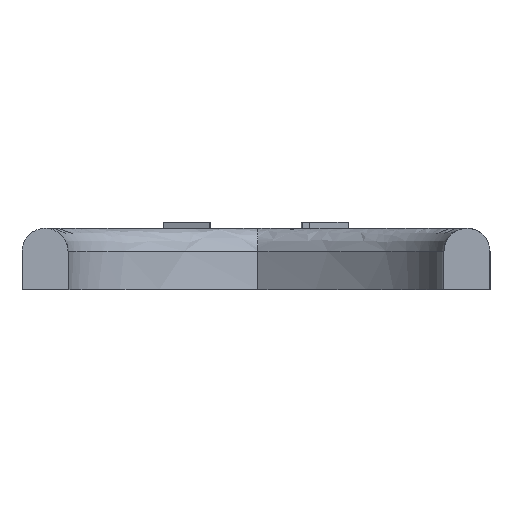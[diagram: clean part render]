
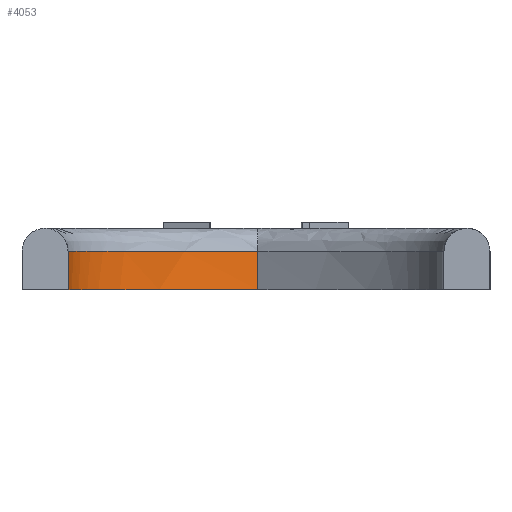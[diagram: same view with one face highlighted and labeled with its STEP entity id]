
A CAD part, left-side view. The second image highlights one B-rep face of the part: STEP entity #4053.
In plain terms, the highlighted free-form (B-spline) face has degree [3, 1] with [16, 2] control points.
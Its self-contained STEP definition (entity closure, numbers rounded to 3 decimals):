
#313=FACE_OUTER_BOUND('',#556,.T.);
#556=EDGE_LOOP('',(#2733,#2734,#2735,#2736));
#811=LINE('',#5838,#1158);
#812=LINE('',#5856,#1159);
#1158=VECTOR('',#4600,10.);
#1159=VECTOR('',#4601,10.);
#1507=B_SPLINE_CURVE_WITH_KNOTS('',3,(#5829,#5830,#5831,#5832,#5833,#5834,
#5835,#5836),.UNSPECIFIED.,.F.,.F.,(4,1,1,1,1,4),(0.125,0.134,
0.143,0.152,0.17,0.186),
 .UNSPECIFIED.);
#1508=B_SPLINE_CURVE_WITH_KNOTS('',3,(#5840,#5841,#5842,#5843,#5844,#5845,
#5846,#5847,#5848,#5849,#5850,#5851,#5852,#5853,#5854,#5855),
 .UNSPECIFIED.,.F.,.F.,(4,3,3,3,3,4),(-0.186,-0.175,
-0.154,-0.14,-0.127,-0.125),
 .UNSPECIFIED.);
#1698=VERTEX_POINT('',#5827);
#1699=VERTEX_POINT('',#5828);
#1700=VERTEX_POINT('',#5837);
#1701=VERTEX_POINT('',#5839);
#2096=EDGE_CURVE('',#1698,#1699,#1507,.T.);
#2097=EDGE_CURVE('',#1698,#1700,#811,.T.);
#2098=EDGE_CURVE('',#1701,#1700,#1508,.T.);
#2099=EDGE_CURVE('',#1699,#1701,#812,.T.);
#2733=ORIENTED_EDGE('',*,*,#2096,.F.);
#2734=ORIENTED_EDGE('',*,*,#2097,.T.);
#2735=ORIENTED_EDGE('',*,*,#2098,.F.);
#2736=ORIENTED_EDGE('',*,*,#2099,.F.);
#3985=B_SPLINE_SURFACE_WITH_KNOTS('',3,1,((#5795,#5796),(#5797,#5798),(#5799,
#5800),(#5801,#5802),(#5803,#5804),(#5805,#5806),(#5807,#5808),(#5809,#5810),
(#5811,#5812),(#5813,#5814),(#5815,#5816),(#5817,#5818),(#5819,#5820),(#5821,
#5822),(#5823,#5824),(#5825,#5826)),.UNSPECIFIED.,.F.,.F.,.F.,(4,3,3,3,
3,4),(2,2),(-0.186,-0.175,-0.154,-0.14,
-0.127,-0.125),(0.,0.5),.UNSPECIFIED.);
#4053=ADVANCED_FACE('',(#313),#3985,.T.);
#4600=DIRECTION('',(0.,0.,-1.));
#4601=DIRECTION('',(0.,0.,-1.));
#5795=CARTESIAN_POINT('Ctrl Pts',(86.602,27.257,0.));
#5796=CARTESIAN_POINT('Ctrl Pts',(86.602,27.257,-5.));
#5797=CARTESIAN_POINT('Ctrl Pts',(85.155,29.632,0.));
#5798=CARTESIAN_POINT('Ctrl Pts',(85.155,29.632,-5.));
#5799=CARTESIAN_POINT('Ctrl Pts',(83.715,31.975,0.));
#5800=CARTESIAN_POINT('Ctrl Pts',(83.715,31.975,-5.));
#5801=CARTESIAN_POINT('Ctrl Pts',(82.263,34.204,0.));
#5802=CARTESIAN_POINT('Ctrl Pts',(82.263,34.204,-5.));
#5803=CARTESIAN_POINT('Ctrl Pts',(79.269,38.797,0.));
#5804=CARTESIAN_POINT('Ctrl Pts',(79.269,38.797,-5.));
#5805=CARTESIAN_POINT('Ctrl Pts',(76.204,42.889,0.));
#5806=CARTESIAN_POINT('Ctrl Pts',(76.204,42.889,-5.));
#5807=CARTESIAN_POINT('Ctrl Pts',(73.015,45.907,0.));
#5808=CARTESIAN_POINT('Ctrl Pts',(73.015,45.907,-5.));
#5809=CARTESIAN_POINT('Ctrl Pts',(70.942,47.869,0.));
#5810=CARTESIAN_POINT('Ctrl Pts',(70.942,47.869,-5.));
#5811=CARTESIAN_POINT('Ctrl Pts',(68.825,49.382,0.));
#5812=CARTESIAN_POINT('Ctrl Pts',(68.825,49.382,-5.));
#5813=CARTESIAN_POINT('Ctrl Pts',(66.709,50.397,0.));
#5814=CARTESIAN_POINT('Ctrl Pts',(66.709,50.397,-5.));
#5815=CARTESIAN_POINT('Ctrl Pts',(64.759,51.333,0.));
#5816=CARTESIAN_POINT('Ctrl Pts',(64.759,51.333,-5.));
#5817=CARTESIAN_POINT('Ctrl Pts',(62.815,51.852,0.));
#5818=CARTESIAN_POINT('Ctrl Pts',(62.815,51.852,-5.));
#5819=CARTESIAN_POINT('Ctrl Pts',(60.877,51.973,0.));
#5820=CARTESIAN_POINT('Ctrl Pts',(60.877,51.973,-5.));
#5821=CARTESIAN_POINT('Ctrl Pts',(60.585,51.991,0.));
#5822=CARTESIAN_POINT('Ctrl Pts',(60.585,51.991,-5.));
#5823=CARTESIAN_POINT('Ctrl Pts',(60.293,52.,0.));
#5824=CARTESIAN_POINT('Ctrl Pts',(60.293,52.,-5.));
#5825=CARTESIAN_POINT('Ctrl Pts',(60.,52.,0.));
#5826=CARTESIAN_POINT('Ctrl Pts',(60.,52.,-5.));
#5827=CARTESIAN_POINT('',(60.,52.,0.));
#5828=CARTESIAN_POINT('',(86.602,27.257,0.));
#5829=CARTESIAN_POINT('Ctrl Pts',(60.,52.,0.));
#5830=CARTESIAN_POINT('Ctrl Pts',(61.354,52.,0.));
#5831=CARTESIAN_POINT('Ctrl Pts',(64.06,51.615,0.));
#5832=CARTESIAN_POINT('Ctrl Pts',(68.149,49.834,0.));
#5833=CARTESIAN_POINT('Ctrl Pts',(73.584,45.846,0.));
#5834=CARTESIAN_POINT('Ctrl Pts',(79.774,38.374,0.));
#5835=CARTESIAN_POINT('Ctrl Pts',(84.416,30.846,0.));
#5836=CARTESIAN_POINT('Ctrl Pts',(86.602,27.257,0.));
#5837=CARTESIAN_POINT('',(60.,52.,-5.));
#5838=CARTESIAN_POINT('',(60.,52.,0.));
#5839=CARTESIAN_POINT('',(86.602,27.257,-5.));
#5840=CARTESIAN_POINT('Ctrl Pts',(86.602,27.257,-5.));
#5841=CARTESIAN_POINT('Ctrl Pts',(85.155,29.632,-5.));
#5842=CARTESIAN_POINT('Ctrl Pts',(83.715,31.975,-5.));
#5843=CARTESIAN_POINT('Ctrl Pts',(82.263,34.204,-5.));
#5844=CARTESIAN_POINT('Ctrl Pts',(79.269,38.797,-5.));
#5845=CARTESIAN_POINT('Ctrl Pts',(76.204,42.889,-5.));
#5846=CARTESIAN_POINT('Ctrl Pts',(73.015,45.907,-5.));
#5847=CARTESIAN_POINT('Ctrl Pts',(70.942,47.869,-5.));
#5848=CARTESIAN_POINT('Ctrl Pts',(68.825,49.382,-5.));
#5849=CARTESIAN_POINT('Ctrl Pts',(66.709,50.397,-5.));
#5850=CARTESIAN_POINT('Ctrl Pts',(64.759,51.333,-5.));
#5851=CARTESIAN_POINT('Ctrl Pts',(62.815,51.852,-5.));
#5852=CARTESIAN_POINT('Ctrl Pts',(60.877,51.973,-5.));
#5853=CARTESIAN_POINT('Ctrl Pts',(60.585,51.991,-5.));
#5854=CARTESIAN_POINT('Ctrl Pts',(60.293,52.,-5.));
#5855=CARTESIAN_POINT('Ctrl Pts',(60.,52.,-5.));
#5856=CARTESIAN_POINT('',(86.602,27.257,0.));
